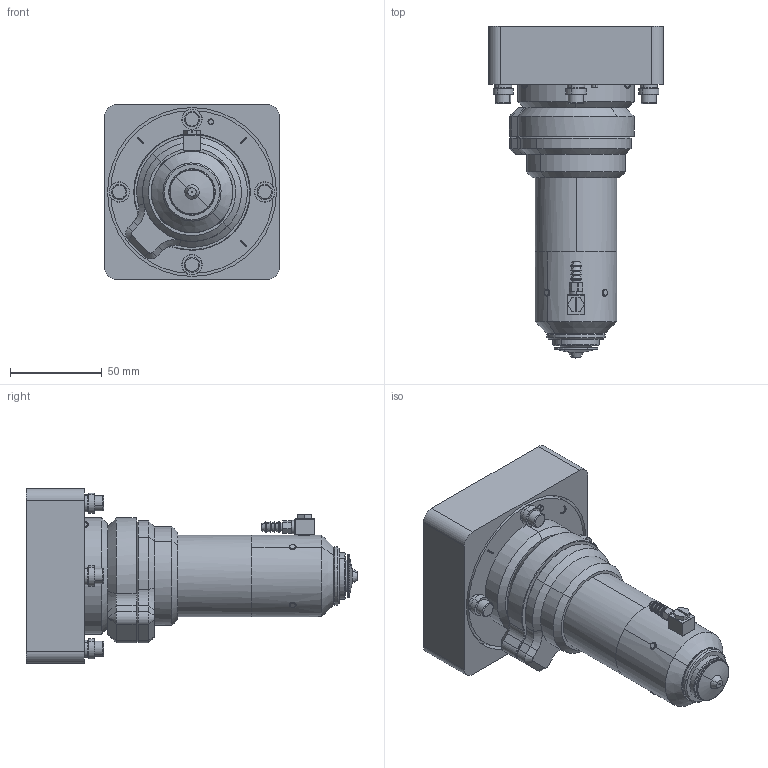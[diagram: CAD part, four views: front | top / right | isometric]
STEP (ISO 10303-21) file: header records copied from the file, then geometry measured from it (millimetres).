
FILE_DESCRIPTION (( 'STEP AP214' ), '1' );
FILE_NAME ('ILH-19-25-038.STEP', '2018-05-14T19:13:17', ( '' ), ( '' ), 'SwSTEP 2.0', 'SolidWorks 2018', '' );
FILE_SCHEMA (( 'AUTOMOTIVE_DESIGN' ));
Length unit declared in the file: inch
Products named in the file (1): ILH-19-25-038
Bounding box: 95.25 x 181.06 x 95.25 mm (x, y, z)
Volume: 560168.3 mm3; surface area: 69996.8 mm2
Topology: 1 solids, 1 shells, 664 faces, 1670 edges, 1033 vertices
Faces by surface type: plane 288, cylinder 196, torus 71, cone 63, bspline 24, sphere 22
Entity records: 29129 total; most frequent: CARTESIAN_POINT 13244, DIRECTION 3358, ORIENTED_EDGE 3288, EDGE_CURVE 1644, AXIS2_PLACEMENT_3D 1271, VERTEX_POINT 1031, VECTOR 816, LINE 816
